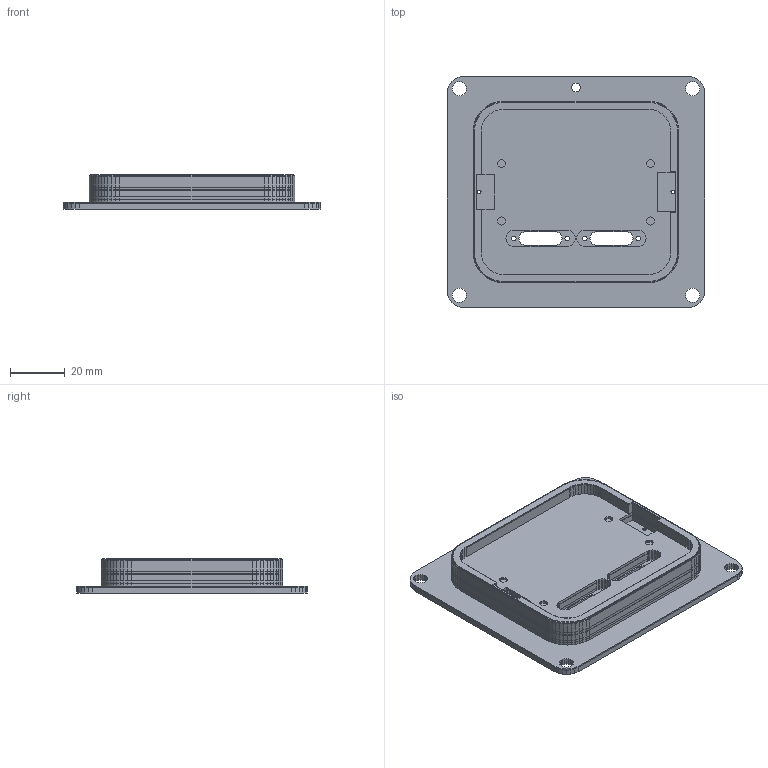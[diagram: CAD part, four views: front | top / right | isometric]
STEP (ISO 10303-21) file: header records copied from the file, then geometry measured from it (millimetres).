
FILE_DESCRIPTION(('AVO Performance Horse - montaje de la cincha (B-rep poliedrico)'),'2;1');
FILE_NAME('AVO_CINCHA_R6_9_soporte_PETG','2026-11-15T12:00:00',('AVO Performance Horse'),('AVO Performance Horse'),'avo_cad.py','avo_cad.py (numpy)','');
FILE_SCHEMA(('AUTOMOTIVE_DESIGN { 1 0 10303 214 1 1 1 1 }'));
Length unit declared in the file: millimetre
Products named in the file (1): AVO_CINCHA_R6_9_soporte_PETG
Bounding box: 94.5 x 84.65 x 12.5 mm (x, y, z)
Volume: 47300.7 mm3; surface area: 21515.5 mm2
Topology: 1 solids, 1 shells, 2276 faces, 5156 edges, 2896 vertices
Faces by surface type: plane 2276
Entity records: 44482 total; most frequent: ORIENTED_EDGE 10392, VECTOR 5196, LINE 5196, EDGE_CURVE 5196, VERTEX_POINT 2936, CARTESIAN_POINT 2897, EDGE_LOOP 2316, AXIS2_PLACEMENT_3D 2277
